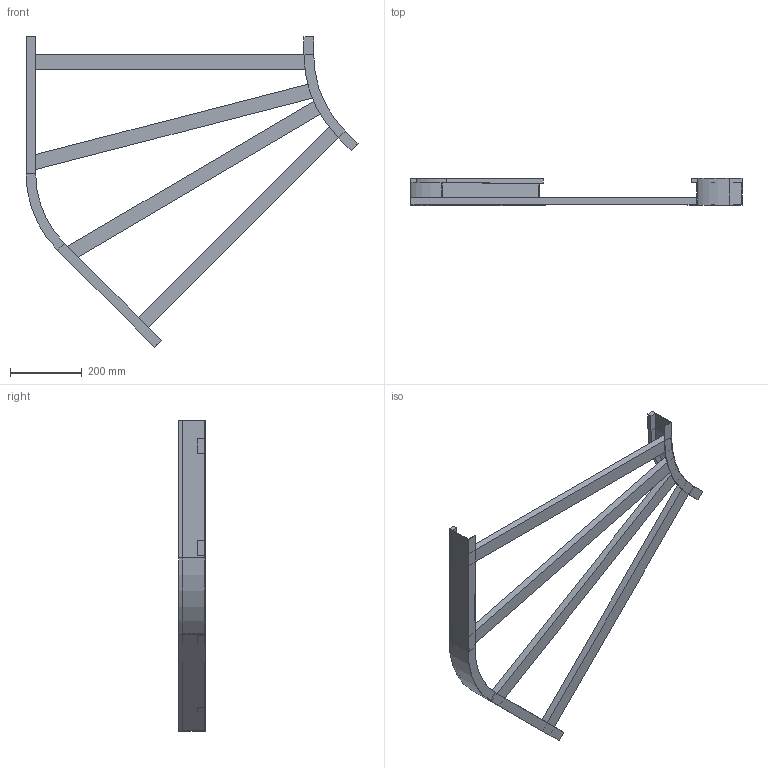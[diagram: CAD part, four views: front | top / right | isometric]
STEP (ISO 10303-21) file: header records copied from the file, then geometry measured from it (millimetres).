
FILE_DESCRIPTION (( 'STEP AP214' ), '1' );
FILE_NAME ('B2_11B3C800.step', '2025-02-21T15:16:51', ( '' ), ( '' ), 'SwSTEP 2.0', 'SolidWorks 2023', '' );
FILE_SCHEMA (( 'AUTOMOTIVE_DESIGN' ));
Length unit declared in the file: millimetre
Products named in the file (5): TRAVERSINO_800; B2_LONGH.INTERNO 45°_H75_R300; B2_11B3C800; TRAVERSINO_900_SCANTONATO; B2_LONGH.ESTERNO 45°_H75_R300+800
Assembly tree (6 placements, depth 2):
  B2_11B3C800
    B2_LONGH.INTERNO 45°_H75_R300
    B2_LONGH.ESTERNO 45°_H75_R300+800
    TRAVERSINO_800  x2
    TRAVERSINO_900_SCANTONATO  x2
Bounding box: 923.22 x 75 x 863.17 mm (x, y, z)
Volume: 3168380.4 mm3; surface area: 718102.1 mm2
Topology: 6 solids, 6 shells, 76 faces, 160 edges, 96 vertices
Faces by surface type: plane 68, cylinder 8
Entity records: 1830 total; most frequent: DIRECTION 298, CARTESIAN_POINT 289, ORIENTED_EDGE 272, EDGE_CURVE 136, LINE 120, VECTOR 120, AXIS2_PLACEMENT_3D 89, VERTEX_POINT 80
